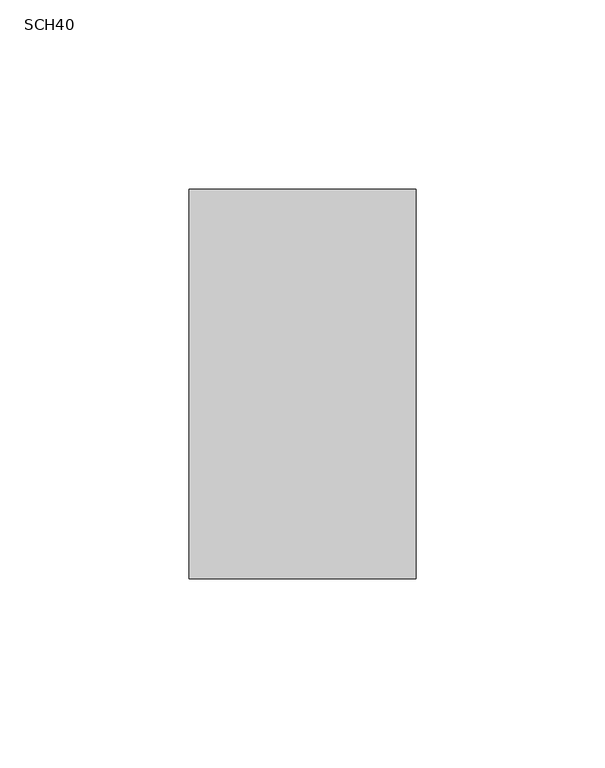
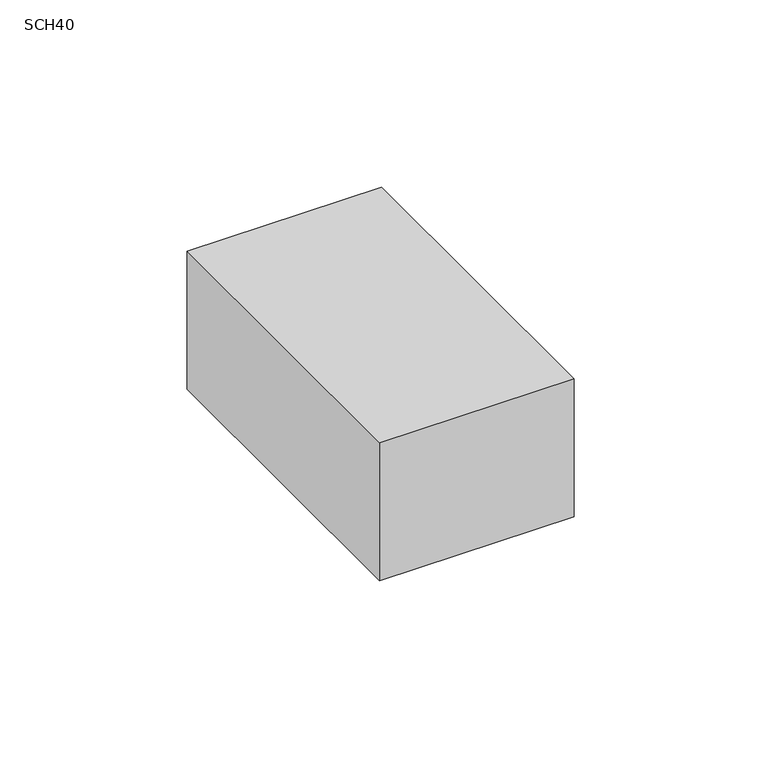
"""IFC4 building model written with IfcOpenShell, lengths in millimetres: cable carrier fitting geometry, PavcoWavin_ConduitFittings_CajaSencilla_Codo : SCH40."""

from ifc_helpers import new_model, si_unit, frame, origin, place, context, project, spatial, polyline, outline, extrude, source, transform, mapped, element, save


def sch40_2f5201ad(model_context):
    return source(origin(), model_context, "Body", "SweptSolid", [
        extrude(outline(polyline([(30.0, 51.5), (30.0, -51.5), (-30.0, -51.5), (-30.0, 51.5), (30.0, 51.5)])), frame((0.0, 0.0, -22.5), z_axis=(0.0, 0.0, 1.0), x_axis=(1.0, 0.0, 0.0)), (0.0, 0.0, 1.0), 45.0),
    ])


if __name__ == "__main__":
    model = new_model("IFC4")
    model_context = context("Model", 3, world=origin())
    ifc_project = project(units=[si_unit("LENGTHUNIT", "METRE", prefix="MILLI")], contexts=[model_context])
    site = spatial("IfcSite", under=ifc_project)
    building = spatial("IfcBuilding", under=site)
    placement = place(None, origin())
    sch40_shape = sch40_2f5201ad(model_context)
    element("IfcCableCarrierFitting", 1, ObjectType="PavcoWavin_ConduitFittings_CajaSencilla_Codo : SCH40", at=placement, inside=building, context=model_context, shape_type="MappedRepresentation", body=[
        mapped(sch40_shape, transform((0.0, 0.0, 0.0), x_axis=(1.0, 0.0, 0.0), y_axis=(0.0, 1.0, 0.0), z_axis=(0.0, 0.0, 1.0))),
    ])
    save(model, "model.ifc")
